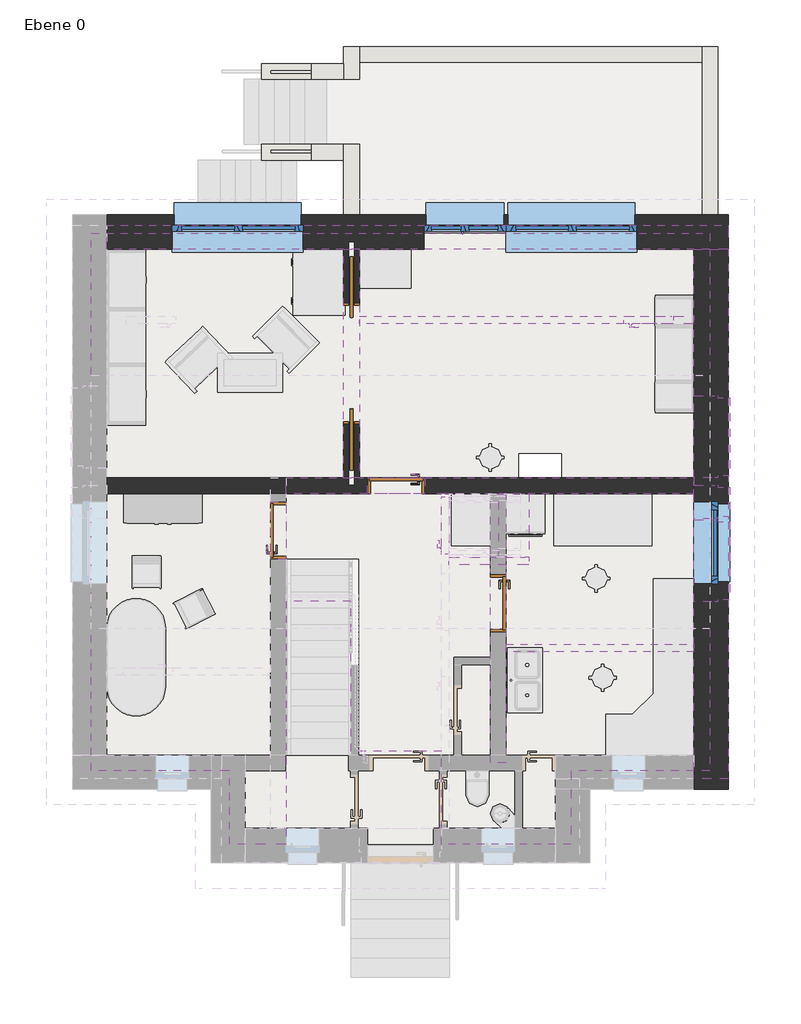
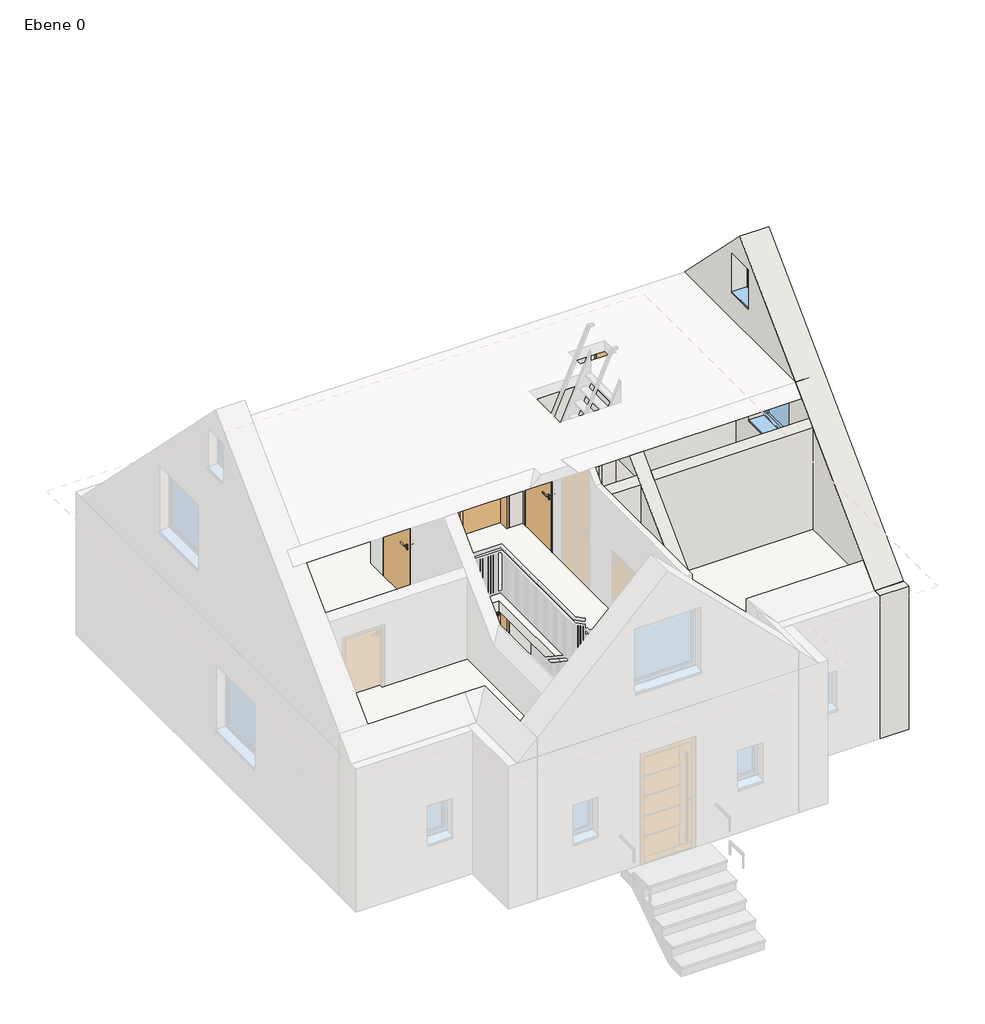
# One storey, part 2 of 3: 19 walls, 8 doors, 7 windows, 3 slabs.
"""IFC4 building model written with IfcOpenShell, lengths in millimetres."""

from ifc_helpers import new_model, si_unit, frame, origin, place, context, project, spatial, polyline, outline, extrude, faceted_brep, transform, mapped, element, save
from components import door_a362e75e, door_5454d597, door_c0c9e2e8, ml_1860_x_226_mit_rahmenstock_2_204127ef, ml_760_x_1200_513c8107, window_1260_x_2136_395e8edb, fe_1_tlg_drehkipp_1260_x_1260_6cbcbbed, fe_1_tlg_drehkipp_510_x_760_2ecf23b0, fe_2_tlg_drehkipp_mit_stulp_2010_x_1260_aa5a6977

model = new_model("IFC4")

# Units and contexts
model_context = context("Model", 3, world=origin())
ifc_project = project(units=[si_unit("LENGTHUNIT", "METRE", prefix="MILLI")], contexts=[model_context])

# Site, building, storey
site = spatial("IfcSite", under=ifc_project)
building = spatial("IfcBuilding", under=site)
storey = spatial("IfcBuildingStorey", under=building, Name="Ebene 0", Elevation=1000.0)

# Doors
placement = place(None, origin())
door_shape = door_a362e75e(model_context)
element("IfcDoor", 1, ObjectType="TU DF 1 - Rahmenstock flächenbündig variabel : ML - H - 885 x 2260", at=placement, inside=storey, context=model_context, shape_type="MappedRepresentation", body=[
    mapped(door_shape, transform((2682.5, 5620.0, 1000.0), x_axis=(-1.0, 0.0, 0.0), y_axis=(0.0, -1.0, 0.0), z_axis=(0.0, 0.0, 1.0))),
])
element("IfcDoor", 2, ObjectType="TU DF 1 - Rahmenstock flächenbündig variabel : ML - H - 885 x 2260", at=placement, inside=storey, context=model_context, shape_type="MappedRepresentation", body=[
    mapped(door_shape, transform((2682.5, 5620.0, 3750.0), x_axis=(-1.0, 0.0, 0.0), y_axis=(0.0, -1.0, 0.0), z_axis=(0.0, 0.0, 1.0))),
])
door_2_shape = door_5454d597(model_context)
element("IfcDoor", 3, ObjectType="TU DF 1 - Rahmenstock flächenbündig variabel : ML - H - 885 x 2260", at=placement, inside=storey, context=model_context, shape_type="MappedRepresentation", body=[
    mapped(door_2_shape, transform((870.0, 4932.5, 1000.0), x_axis=(0.0, 1.0, 0.0), y_axis=(-1.0, 0.0, 0.0), z_axis=(0.0, 0.0, 1.0))),
])
element("IfcDoor", 4, ObjectType="TU DF 1 - Rahmenstock flächenbündig variabel : ML - H - 885 x 2260", at=placement, inside=storey, context=model_context, shape_type="MappedRepresentation", body=[
    mapped(door_2_shape, transform((870.0, 4932.5, 3750.0), x_axis=(0.0, 1.0, 0.0), y_axis=(-1.0, 0.0, 0.0), z_axis=(0.0, 0.0, 1.0))),
])
door_3_shape = door_c0c9e2e8(model_context)
element("IfcDoor", 5, ObjectType="TU DF 1 - Rahmenstock flächenbündig variabel : ML - H - 885 x 2260", at=placement, inside=storey, context=model_context, shape_type="MappedRepresentation", body=[
    mapped(door_3_shape, transform((3432.5, 5010.0, 3750.0), x_axis=(0.0, 1.0, 0.0), y_axis=(-1.0, 0.0, 0.0), z_axis=(0.0, 0.0, 1.0))),
])
element("IfcDoor", 6, ObjectType="TU DF 1 - Rahmenstock flächenbündig variabel : ML - H - 885 x 2260", at=placement, inside=storey, context=model_context, shape_type="MappedRepresentation", body=[
    mapped(door_2_shape, transform((4245.0, 3817.5, 1100.0), x_axis=(0.0, -1.0, 0.0), y_axis=(1.0, 0.0, 0.0), z_axis=(0.0, 0.0, 1.0))),
])
ml_1860_x_226_mit_rahmenstock_2_shape = ml_1860_x_226_mit_rahmenstock_2_204127ef(model_context)
element("IfcDoor", 7, ObjectType="TU SF 2 - Schiebetüre in Wandtasche : ML - 1860 x 226 mit Rahmenstock 2", at=placement, inside=storey, context=model_context, shape_type="MappedRepresentation", body=[
    mapped(ml_1860_x_226_mit_rahmenstock_2_shape, transform((1995.1159714, 7495.0, 1000.0), x_axis=(0.0, 1.0, 0.0), y_axis=(-1.0, 0.0, 0.0), z_axis=(0.0, 0.0, 1.0))),
])
ml_760_x_1200_shape = ml_760_x_1200_513c8107(model_context)
element("IfcDoor", 8, ObjectType="TU DF 1 - Rahmenstock flächenbündig : ML -760 x 1200", at=placement, inside=storey, context=model_context, shape_type="MappedRepresentation", body=[
    mapped(ml_760_x_1200_shape, transform((6555.0, 8157.5, 3750.0), x_axis=(1.0, 0.0, 0.0), y_axis=(0.0, 1.0, 0.0), z_axis=(0.0, 0.0, 1.0))),
])

# Slabs
element("IfcSlab", 9, ObjectType="FB 100 Terrazzo", at=placement, inside=storey, context=model_context, shape_type="SweptSolid", body=[
    extrude(outline(polyline([(4365.0, 1490.0), (4365.0, 5500.0), (7250.0, 5500.0), (7250.0, 1490.0), (5125.0, 1490.0), (5125.0, 365.0), (4615.0, 365.0), (4615.0, 1490.0), (4365.0, 1490.0)])), frame((0.0, 0.0, 1000.0), z_axis=(0.0, 0.0, 1.0), x_axis=(1.0, 0.0, 0.0)), (0.0, 0.0, 1.0), 100.0),
])
element("IfcSlab", 10, ObjectType="STB 200", at=placement, inside=storey, context=model_context, shape_type="Brep", body=[
    faceted_brep([(-2000.0, 9490.0, 3550.0), (-1760.0, 9490.0, 3550.0), (7490.0, 9490.0, 3550.0), (7490.0, 9250.0, 3550.0), (7490.0, 1250.0, 3550.0), (7250.0, 1250.0, 3550.0), (5365.0, 1250.0, 3550.0), (5365.0, 965.0, 3550.0), (5365.0, 125.0, 3550.0), (5125.0, 125.0, 3550.0), (3375.0, 125.0, 3550.0), (3375.0, 365.0, 3550.0), (3375.0, 1550.0, 3550.0), (1990.0, 1550.0, 3550.0), (1990.0, 3847.3, 3550.0), (990.0, 3847.3, 3550.0), (990.0, 365.0, 3550.0), (990.0, 125.0, 3550.0), (365.0, 125.0, 3550.0), (125.0, 125.0, 3550.0), (125.0, 1250.0, 3550.0), (-160.0, 1250.0, 3550.0), (-2000.0, 1250.0, 3550.0), (-2000.0, 1490.0, 3550.0), (5215.0, 5751.2341615, 3550.0), (5215.0, 6111.2341615, 3550.0), (4565.0, 6111.2341615, 3550.0), (4565.0, 5751.2341615, 3550.0), (7490.0, 9490.0, 3750.0), (-1760.0, 9490.0, 3750.0), (-2000.0, 9490.0, 3750.0), (-2000.0, 1490.0, 3750.0), (-2000.0, 1250.0, 3750.0), (-160.0, 1250.0, 3750.0), (125.0, 1250.0, 3750.0), (125.0, 125.0, 3750.0), (365.0, 125.0, 3750.0), (990.0, 125.0, 3750.0), (990.0, 365.0, 3750.0), (990.0, 3847.3, 3750.0), (1990.0, 3847.3, 3750.0), (1990.0, 1550.0, 3750.0), (3375.0, 1550.0, 3750.0), (3375.0, 365.0, 3750.0), (3375.0, 125.0, 3750.0), (5125.0, 125.0, 3750.0), (5365.0, 125.0, 3750.0), (5365.0, 965.0, 3750.0), (5365.0, 1250.0, 3750.0), (7250.0, 1250.0, 3750.0), (7490.0, 1250.0, 3750.0), (7490.0, 9250.0, 3750.0), (5215.0, 6111.2341615, 3750.0), (5215.0, 5751.2341615, 3750.0), (4565.0, 5751.2341615, 3750.0), (4565.0, 6111.2341615, 3750.0)], [[[0, 1, 2, 3, 4, 5, 6, 7, 8, 9, 10, 11, 12, 13, 14, 15, 16, 17, 18, 19, 20, 21, 22, 23], [24, 25, 26, 27]], [[28, 29, 30, 31, 32, 33, 34, 35, 36, 37, 38, 39, 40, 41, 42, 43, 44, 45, 46, 47, 48, 49, 50, 51], [52, 53, 54, 55]], [[2, 1, 0, 30, 29, 28]], [[4, 3, 2, 28, 51, 50]], [[6, 5, 4, 50, 49, 48]], [[8, 7, 6, 48, 47, 46]], [[10, 9, 8, 46, 45, 44]], [[20, 19, 35, 34]], [[22, 21, 20, 34, 33, 32]], [[0, 23, 22, 32, 31, 30]], [[17, 16, 15, 39, 38, 37]], [[14, 13, 41, 40]], [[15, 14, 40, 39]], [[12, 11, 10, 44, 43, 42]], [[13, 12, 42, 41]], [[19, 18, 17, 37, 36, 35]], [[24, 53, 52, 25]], [[25, 52, 55, 26]], [[26, 55, 54, 27]], [[53, 24, 27, 54]]]),
])
element("IfcSlab", 11, ObjectType="STB 200", at=placement, inside=storey, context=model_context, shape_type="Brep", body=[
    faceted_brep([(-2000.0, 9490.0, 800.0), (-1825.0, 9490.0, 800.0), (7490.0, 9490.0, 800.0), (7490.0, 9315.0, 800.0), (7490.0, 1250.0, 800.0), (7315.0, 1250.0, 800.0), (5365.0, 1250.0, 800.0), (5365.0, 965.0, 800.0), (5365.0, 125.0, 800.0), (5190.0, 125.0, 800.0), (300.0, 125.0, 800.0), (125.0, 125.0, 800.0), (125.0, 1250.0, 800.0), (-160.0, 1250.0, 800.0), (-2000.0, 1250.0, 800.0), (-2000.0, 1425.0, 800.0), (990.0, 4490.0, 800.0), (990.0, 1490.0, 800.0), (1990.0, 1490.0, 800.0), (1990.0, 4490.0, 800.0), (5215.0, 5751.2341615, 800.0), (5215.0, 6111.2341615, 800.0), (4565.0, 6111.2341615, 800.0), (4565.0, 5751.2341615, 800.0), (7490.0, 9490.0, 1000.0), (-1825.0, 9490.0, 1000.0), (-2000.0, 9490.0, 1000.0), (-2000.0, 1425.0, 1000.0), (-2000.0, 1250.0, 1000.0), (-160.0, 1250.0, 1000.0), (125.0, 1250.0, 1000.0), (125.0, 125.0, 1000.0), (300.0, 125.0, 1000.0), (5190.0, 125.0, 1000.0), (5365.0, 125.0, 1000.0), (5365.0, 965.0, 1000.0), (5365.0, 1250.0, 1000.0), (7315.0, 1250.0, 1000.0), (7490.0, 1250.0, 1000.0), (7490.0, 9315.0, 1000.0), (990.0, 1490.0, 1000.0), (990.0, 4490.0, 1000.0), (1990.0, 4490.0, 1000.0), (1990.0, 1490.0, 1000.0), (5215.0, 6111.2341615, 1000.0), (5215.0, 5751.2341615, 1000.0), (4565.0, 5751.2341615, 1000.0), (4565.0, 6111.2341615, 1000.0)], [[[0, 1, 2, 3, 4, 5, 6, 7, 8, 9, 10, 11, 12, 13, 14, 15], [16, 17, 18, 19], [20, 21, 22, 23]], [[24, 25, 26, 27, 28, 29, 30, 31, 32, 33, 34, 35, 36, 37, 38, 39], [40, 41, 42, 43], [44, 45, 46, 47]], [[2, 1, 0, 26, 25, 24]], [[4, 3, 2, 24, 39, 38]], [[6, 5, 4, 38, 37, 36]], [[8, 7, 6, 36, 35, 34]], [[11, 10, 9, 8, 34, 33, 32, 31]], [[12, 11, 31, 30]], [[14, 13, 12, 30, 29, 28]], [[0, 15, 14, 28, 27, 26]], [[17, 16, 41, 40]], [[18, 17, 40, 43]], [[19, 18, 43, 42]], [[16, 19, 42, 41]], [[20, 45, 44, 21]], [[21, 44, 47, 22]], [[22, 47, 46, 23]], [[45, 20, 23, 46]]]),
])

# Walls
element("IfcWall", 12, ObjectType="Ziegel+WD hart 365+140+2", at=placement, inside=storey, context=model_context, shape_type="Brep", body=[
    faceted_brep([(-1760.0, 9250.0, 1000.0), (1875.0, 9250.0, 1000.0), (1952.6159714, 9250.0, 1000.0), (1952.6159714, 9250.0, 3260.0), (2037.6159714, 9250.0, 3260.0), (2037.6159714, 9250.0, 1000.0), (2115.0, 9250.0, 1000.0), (3105.0, 9250.0, 1000.0), (3105.0, 9250.0, 3135.0), (4365.0, 9250.0, 3135.0), (4365.0, 9250.0, 3110.0), (6375.0, 9250.0, 3110.0), (6375.0, 9250.0, 1850.0), (4365.0, 9250.0, 1850.0), (4365.0, 9250.0, 1000.0), (7250.0, 9250.0, 1000.0), (7775.0, 9250.0, 1000.0), (7775.0, 9250.0, 3750.0), (7490.0, 9250.0, 3750.0), (7490.0, 9250.0, 3550.0), (7250.0, 9250.0, 3550.0), (2115.0, 9250.0, 3550.0), (1875.0, 9250.0, 3550.0), (-1760.0, 9250.0, 3550.0), (-760.0, 9250.0, 3110.0), (1250.0, 9250.0, 3110.0), (1250.0, 9250.0, 1850.0), (-760.0, 9250.0, 1850.0), (7775.0, 9775.0, 1000.0), (-1760.0, 9775.0, 1000.0), (-1760.0, 9775.0, 3750.0), (7775.0, 9775.0, 3750.0), (1220.0, 9775.0, 1865.0), (1220.0, 9775.0, 3080.0), (-730.0, 9775.0, 3080.0), (-730.0, 9775.0, 1865.0), (4335.0, 9775.0, 1195.0), (4335.0, 9775.0, 3105.0), (3135.0, 9775.0, 3105.0), (3135.0, 9775.0, 1195.0), (6345.0, 9775.0, 1865.0), (6345.0, 9775.0, 3080.0), (4395.0, 9775.0, 3080.0), (4395.0, 9775.0, 1865.0), (4365.0, 9615.0, 1000.0), (3105.0, 9615.0, 1000.0), (2037.6159714, 9360.0, 1000.0), (1952.6159714, 9360.0, 1000.0), (-1760.0, 9490.0, 3750.0), (7490.0, 9490.0, 3750.0), (7775.0, 9615.0, 3750.0), (-1760.0, 9490.0, 3550.0), (-760.0, 9615.0, 3110.0), (1250.0, 9615.0, 3110.0), (1250.0, 9615.0, 1850.0), (-760.0, 9615.0, 1850.0), (1220.0, 9615.0, 3080.0), (1220.0, 9615.0, 1870.0), (-730.0, 9615.0, 1870.0), (-730.0, 9615.0, 3080.0), (1952.6159714, 9360.0, 3260.0), (2037.6159714, 9360.0, 3260.0), (3105.0, 9615.0, 3135.0), (4365.0, 9615.0, 3135.0), (4365.0, 9615.0, 3110.0), (4365.0, 9615.0, 1850.0), (6375.0, 9615.0, 1850.0), (6375.0, 9615.0, 3110.0), (4335.0, 9615.0, 3105.0), (4335.0, 9615.0, 1200.0), (3135.0, 9615.0, 1200.0), (3135.0, 9615.0, 3105.0), (6345.0, 9615.0, 3080.0), (6345.0, 9615.0, 1870.0), (4395.0, 9615.0, 1870.0), (4395.0, 9615.0, 3080.0), (7490.0, 9490.0, 3550.0)], [[[0, 1, 2, 3, 4, 5, 6, 7, 8, 9, 10, 11, 12, 13, 14, 15, 16, 17, 18, 19, 20, 21, 22, 23], [24, 25, 26, 27]], [[28, 29, 30, 31], [32, 33, 34, 35], [36, 37, 38, 39], [40, 41, 42, 43]], [[29, 28, 16, 15, 14, 44, 45, 7, 6, 5, 46, 47, 2, 1, 0]], [[31, 30, 48, 49, 18, 17, 50]], [[30, 29, 0, 23, 51, 48]], [[52, 53, 25, 24]], [[54, 55, 27, 26]], [[52, 24, 27, 55]], [[25, 53, 54, 26]], [[53, 52, 55, 54], [56, 57, 58, 59]], [[57, 56, 33, 32]], [[58, 57, 32, 35]], [[59, 58, 35, 34]], [[56, 59, 34, 33]], [[60, 61, 4, 3]], [[47, 60, 3, 2]], [[61, 46, 5, 4]], [[61, 60, 47, 46]], [[62, 63, 9, 8]], [[62, 8, 7, 45]], [[9, 63, 64, 10]], [[44, 14, 13, 65]], [[63, 62, 45, 44, 65, 66, 67, 64], [68, 69, 70, 71], [72, 73, 74, 75]], [[69, 68, 37, 36]], [[70, 69, 36, 39]], [[71, 70, 39, 38]], [[68, 71, 38, 37]], [[64, 67, 11, 10]], [[66, 65, 13, 12]], [[67, 66, 12, 11]], [[73, 72, 41, 40]], [[74, 73, 40, 43]], [[75, 74, 43, 42]], [[72, 75, 42, 41]], [[19, 76, 51, 23, 22, 21, 20]], [[76, 49, 48, 51]], [[49, 76, 19, 18]], [[16, 28, 31, 50, 17]]]),
])
element("IfcWall", 13, ObjectType="Ziegel+WD hart 365+140+2", at=placement, inside=storey, context=model_context, shape_type="Brep", body=[
    faceted_brep([(7250.0, 9250.0, 1000.0), (7250.0, 5740.0, 1000.0), (7250.0, 5500.0, 1000.0), (7250.0, 1490.0, 1000.0), (7250.0, 965.0, 1000.0), (7250.0, 965.0, 3750.0), (7250.0, 1125.0, 3750.0), (7250.0, 1250.0, 3750.0), (7250.0, 1250.0, 3550.0), (7250.0, 1490.0, 3550.0), (7250.0, 5500.0, 3550.0), (7250.0, 5740.0, 3550.0), (7250.0, 9250.0, 3550.0), (7250.0, 5375.0, 3110.0), (7250.0, 4115.0, 3110.0), (7250.0, 4115.0, 1850.0), (7250.0, 5375.0, 1850.0), (7775.0, 965.0, 1000.0), (7775.0, 9250.0, 1000.0), (7775.0, 9250.0, 3750.0), (7775.0, 1125.0, 3750.0), (7775.0, 965.0, 3750.0), (7775.0, 4145.0, 1860.0), (7775.0, 4145.0, 3080.0), (7775.0, 5345.0, 3080.0), (7775.0, 5345.0, 1860.0), (7615.0, 5375.0, 3110.0), (7615.0, 4115.0, 3110.0), (7615.0, 5375.0, 1850.0), (7615.0, 4115.0, 1850.0), (7615.0, 4145.0, 3080.0), (7615.0, 4145.0, 1870.0), (7615.0, 5345.0, 1870.0), (7615.0, 5345.0, 3080.0), (7490.0, 1250.0, 3550.0), (7490.0, 9250.0, 3550.0), (7490.0, 1250.0, 3750.0), (7490.0, 9250.0, 3750.0)], [[[0, 1, 2, 3, 4, 5, 6, 7, 8, 9, 10, 11, 12], [13, 14, 15, 16]], [[17, 18, 19, 20, 21], [22, 23, 24, 25]], [[5, 4, 17, 21]], [[26, 27, 14, 13]], [[28, 16, 15, 29]], [[26, 13, 16, 28]], [[14, 27, 29, 15]], [[27, 26, 28, 29], [30, 31, 32, 33]], [[31, 30, 23, 22]], [[32, 31, 22, 25]], [[33, 32, 25, 24]], [[30, 33, 24, 23]], [[8, 34, 35, 12, 11, 10, 9]], [[34, 36, 37, 35]], [[36, 34, 8, 7]], [[19, 18, 0, 12, 35, 37]], [[4, 3, 2, 1, 0, 18, 17]], [[21, 20, 19, 37, 36, 7, 6, 5]]]),
])
element("IfcWall", 14, ObjectType="Ziegel+WD hart 365+140+2", at=placement, inside=storey, context=model_context, shape_type="Brep", body=[
    faceted_brep([(7250.0, 9250.0, 3750.0), (7250.0, 5740.0, 3750.0), (7250.0, 5500.0, 3750.0), (7250.0, 3190.0, 3750.0), (7250.0, 3075.0, 3750.0), (7250.0, 1490.0, 3750.0), (7250.0, 1250.0, 3750.0), (7250.0, 1125.0, 3750.0), (7250.0, 1125.0, 3753.0508653), (7250.0, 1128.0508653, 3753.0508653), (7250.0, 1490.0, 4115.0), (7250.0, 3075.0, 5700.0), (7250.0, 3190.0, 5815.0), (7250.0, 5370.0, 7995.0), (7250.0, 9250.0, 4115.0), (7250.0, 5100.0, 5860.0), (7250.0, 3840.0, 5860.0), (7250.0, 3840.0, 4600.0), (7250.0, 5100.0, 4600.0), (7250.0, 7000.0, 5860.0), (7250.0, 5740.0, 5860.0), (7250.0, 5740.0, 4600.0), (7250.0, 7000.0, 4600.0), (7250.0, 5625.0, 7510.0), (7250.0, 5115.0, 7510.0), (7250.0, 5115.0, 6750.0), (7250.0, 5625.0, 6750.0), (7775.0, 1125.0, 3750.0), (7775.0, 9250.0, 3750.0), (7775.0, 9250.0, 4115.0), (7775.0, 5370.0, 7995.0), (7775.0, 1128.0508653, 3753.0508653), (7775.0, 1125.0, 3753.0508653), (7775.0, 3870.0, 4610.0), (7775.0, 3870.0, 5830.0), (7775.0, 5070.0, 5830.0), (7775.0, 5070.0, 4610.0), (7775.0, 5770.0, 4610.0), (7775.0, 5770.0, 5830.0), (7775.0, 6970.0, 5830.0), (7775.0, 6970.0, 4610.0), (7775.0, 5145.0, 6760.0), (7775.0, 5145.0, 7480.0), (7775.0, 5595.0, 7480.0), (7775.0, 5595.0, 6760.0), (7490.0, 9250.0, 3750.0), (7615.0, 5100.0, 5860.0), (7615.0, 3840.0, 5860.0), (7615.0, 5100.0, 4600.0), (7615.0, 3840.0, 4600.0), (7615.0, 3870.0, 5830.0), (7615.0, 3870.0, 4620.0), (7615.0, 5070.0, 4620.0), (7615.0, 5070.0, 5830.0), (7615.0, 7000.0, 5860.0), (7615.0, 5740.0, 5860.0), (7615.0, 7000.0, 4600.0), (7615.0, 5740.0, 4600.0), (7615.0, 5770.0, 5830.0), (7615.0, 5770.0, 4620.0), (7615.0, 6970.0, 4620.0), (7615.0, 6970.0, 5830.0), (7615.0, 5625.0, 7510.0), (7615.0, 5115.0, 7510.0), (7615.0, 5625.0, 6750.0), (7615.0, 5115.0, 6750.0), (7615.0, 5145.0, 7480.0), (7615.0, 5145.0, 6770.0), (7615.0, 5595.0, 6770.0), (7615.0, 5595.0, 7480.0)], [[[0, 1, 2, 3, 4, 5, 6, 7, 8, 9, 10, 11, 12, 13, 14], [15, 16, 17, 18], [19, 20, 21, 22], [23, 24, 25, 26]], [[27, 28, 29, 30, 31, 32], [33, 34, 35, 36], [37, 38, 39, 40], [41, 42, 43, 44]], [[7, 6, 5, 4, 3, 2, 1, 0, 45, 28, 27]], [[0, 14, 29, 28, 45]], [[8, 7, 27, 32]], [[46, 47, 16, 15]], [[48, 18, 17, 49]], [[46, 15, 18, 48]], [[16, 47, 49, 17]], [[47, 46, 48, 49], [50, 51, 52, 53]], [[51, 50, 34, 33]], [[52, 51, 33, 36]], [[53, 52, 36, 35]], [[50, 53, 35, 34]], [[54, 55, 20, 19]], [[56, 22, 21, 57]], [[54, 19, 22, 56]], [[20, 55, 57, 21]], [[55, 54, 56, 57], [58, 59, 60, 61]], [[59, 58, 38, 37]], [[60, 59, 37, 40]], [[61, 60, 40, 39]], [[58, 61, 39, 38]], [[29, 14, 13, 30]], [[13, 12, 11, 10, 9, 31, 30]], [[8, 32, 31, 9]], [[62, 63, 24, 23]], [[64, 26, 25, 65]], [[62, 23, 26, 64]], [[24, 63, 65, 25]], [[63, 62, 64, 65], [66, 67, 68, 69]], [[67, 66, 42, 41]], [[68, 67, 41, 44]], [[69, 68, 44, 43]], [[66, 69, 43, 42]]]),
])
element("IfcWall", 15, ObjectType="Klinker 240", at=placement, inside=storey, context=model_context, shape_type="SweptSolid", body=[
    extrude(outline(polyline([(1000.0, 1875.0), (2000.0, 1875.0), (2000.0, 1380.0), (1500.0, 1380.0), (1500.0, 615.0), (1000.0, 615.0), (1000.0, 1875.0)])), frame((0.0, 10615.0, 0.0), z_axis=(0.0, 1.0, 0.0), x_axis=(0.0, 0.0, 1.0)), (0.0, 0.0, 1.0), 240.0),
])
element("IfcWall", 16, ObjectType="Klinker 240", at=placement, inside=storey, context=model_context, shape_type="SweptSolid", body=[
    extrude(outline(polyline([(1000.0, 1875.0), (2000.0, 1875.0), (2000.0, 1380.0), (1500.0, 1380.0), (1500.0, 615.0), (1000.0, 615.0), (1000.0, 1875.0)])), frame((0.0, 11855.0, 0.0), z_axis=(0.0, 1.0, 0.0), x_axis=(0.0, 0.0, 1.0)), (0.0, 0.0, 1.0), 240.0),
])
element("IfcWall", 17, ObjectType="Ziegel 115", at=placement, inside=storey, context=model_context, shape_type="Brep", body=[
    faceted_brep([(-1760.0, 8100.0, 5265.0), (-1760.0, 8100.0, 3750.0), (-1465.0, 8100.0, 3750.0), (-1465.0, 8100.0, 4950.0), (-705.0, 8100.0, 4950.0), (-705.0, 8100.0, 3750.0), (1875.0, 8100.0, 3750.0), (1875.0, 8100.0, 5265.0), (-1760.0, 8215.0, 3750.0), (-1760.0, 8215.0, 5150.0), (1875.0, 8215.0, 5150.0), (1875.0, 8215.0, 3750.0), (-705.0, 8215.0, 3750.0), (-705.0, 8215.0, 4950.0), (-1465.0, 8215.0, 4950.0), (-1465.0, 8215.0, 3750.0)], [[[0, 1, 2, 3, 4, 5, 6, 7]], [[8, 9, 10, 11, 12, 13, 14, 15]], [[1, 8, 15, 2]], [[5, 12, 11, 6]], [[1, 0, 9, 8]], [[7, 6, 11, 10]], [[3, 2, 15, 14]], [[5, 4, 13, 12]], [[4, 3, 14, 13]], [[9, 0, 7, 10]]]),
    faceted_brep([(7250.0, 8100.0, 3750.0), (7250.0, 8100.0, 5265.0), (2115.0, 8100.0, 5265.0), (2115.0, 8100.0, 3750.0), (6175.0, 8100.0, 3750.0), (6175.0, 8100.0, 4950.0), (6935.0, 8100.0, 4950.0), (6935.0, 8100.0, 3750.0), (7250.0, 8215.0, 5150.0), (7250.0, 8215.0, 3750.0), (6935.0, 8215.0, 3750.0), (6935.0, 8215.0, 4950.0), (6175.0, 8215.0, 4950.0), (6175.0, 8215.0, 3750.0), (2115.0, 8215.0, 3750.0), (2115.0, 8215.0, 5150.0)], [[[0, 1, 2, 3, 4, 5, 6, 7]], [[8, 9, 10, 11, 12, 13, 14, 15]], [[9, 0, 7, 10]], [[13, 4, 3, 14]], [[1, 0, 9, 8]], [[3, 2, 15, 14]], [[6, 11, 10, 7]], [[12, 5, 4, 13]], [[11, 6, 5, 12]], [[1, 8, 15, 2]]]),
])
element("IfcWall", 18, ObjectType="Ziegel 115", at=placement, inside=storey, context=model_context, shape_type="Brep", body=[
    faceted_brep([(7250.0, 3075.0, 3750.0), (7250.0, 3075.0, 5700.0), (4365.0, 3075.0, 5700.0), (4365.0, 3075.0, 3750.0), (7250.0, 3190.0, 5815.0), (7250.0, 3190.0, 3750.0), (4365.0, 3190.0, 3750.0), (4365.0, 3190.0, 5760.0), (4365.0, 3190.0, 5815.0)], [[[0, 1, 2, 3]], [[4, 5, 6, 7, 8]], [[5, 0, 3, 6]], [[1, 0, 5, 4]], [[3, 2, 8, 7, 6]], [[1, 4, 8, 2]]]),
    faceted_brep([(3490.0, 3075.0, 5750.0), (3490.0, 3075.0, 3750.0), (4125.0, 3075.0, 3750.0), (4125.0, 3075.0, 5700.0), (3540.0, 3075.0, 5700.0), (3490.0, 3190.0, 3750.0), (3490.0, 3190.0, 5815.0), (4125.0, 3190.0, 5815.0), (4125.0, 3190.0, 5760.0), (4125.0, 3190.0, 3750.0), (3490.0, 3125.0, 5750.0)], [[[0, 1, 2, 3, 4]], [[5, 6, 7, 8, 9]], [[1, 5, 9, 2]], [[1, 0, 10, 6, 5]], [[3, 2, 9, 8, 7]], [[0, 4, 10]], [[6, 10, 4, 3, 7]]]),
])
element("IfcWall", 19, ObjectType="Ziegel 115", at=placement, inside=storey, context=model_context, shape_type="Brep", body=[
    faceted_brep([(4125.0, 4520.0, 3750.0), (3490.0, 4520.0, 3750.0), (3490.0, 4520.0, 6050.0), (4125.0, 4520.0, 6050.0), (4365.0, 4520.0, 6050.0), (4590.0, 4520.0, 6050.0), (4593.9681704, 4520.0, 6050.0), (4718.8996138, 4520.0, 6050.0), (4719.1733767, 4520.0, 6050.0), (4365.0, 4520.0, 5215.6198126), (4125.0, 4520.0, 4650.2152448), (4125.0, 4405.0, 3750.0), (4125.0, 4405.0, 4650.2152448), (4365.0, 4405.0, 5215.6198126), (4719.1733767, 4405.0, 6050.0), (4365.0, 4405.0, 6050.0), (4125.0, 4405.0, 6050.0), (3490.0, 4405.0, 6050.0), (3490.0, 4405.0, 3750.0)], [[[0, 1, 2, 3, 4, 5, 6, 7, 8, 9, 10]], [[11, 12, 13, 14, 15, 16, 17, 18]], [[2, 1, 18, 17]], [[1, 0, 11, 18]], [[10, 9, 8, 14, 13, 12]], [[0, 10, 12, 11]], [[8, 7, 6, 5, 4, 3, 2, 17, 16, 15, 14]]]),
])
element("IfcWall", 20, ObjectType="Ziegel 115", at=placement, inside=storey, context=model_context, shape_type="SweptSolid", body=[
    extrude(outline(polyline([(5250.0, 4254.3883174), (5250.0, 4379.3197608), (6050.0, 4718.8996138), (6050.0, 4593.9681704), (5250.0, 4254.3883174)])), frame((0.0, 4520.0, 0.0), z_axis=(0.0, 1.0, 0.0), x_axis=(0.0, 0.0, 1.0)), (0.0, 0.0, 1.0), 980.0),
])
element("IfcWall", 21, ObjectType="Ziegel 240", at=placement, inside=storey, context=model_context, shape_type="Brep", body=[
    faceted_brep([(-1760.0, 5500.0, 3550.0), (-1760.0, 5500.0, 1000.0), (750.0, 5500.0, 1000.0), (990.0, 5500.0, 1000.0), (2240.0, 5500.0, 1000.0), (2240.0, 5500.0, 3260.0), (3125.0, 5500.0, 3260.0), (3125.0, 5500.0, 1000.0), (7250.0, 5500.0, 1000.0), (7250.0, 5500.0, 3550.0), (990.0, 5500.0, 3550.0), (750.0, 5500.0, 3550.0), (-1760.0, 5740.0, 1000.0), (-1760.0, 5740.0, 3550.0), (1875.0, 5740.0, 3550.0), (2115.0, 5740.0, 3550.0), (7250.0, 5740.0, 3550.0), (7250.0, 5740.0, 1000.0), (3125.0, 5740.0, 1000.0), (3125.0, 5740.0, 3260.0), (2240.0, 5740.0, 3260.0), (2240.0, 5740.0, 1000.0), (2115.0, 5740.0, 1000.0), (2037.6159714, 5740.0, 1000.0), (2037.6159714, 5740.0, 3260.0), (1952.6159714, 5740.0, 3260.0), (1952.6159714, 5740.0, 1000.0), (1875.0, 5740.0, 1000.0), (1952.6159714, 5630.0, 1000.0), (2037.6159714, 5630.0, 1000.0), (2037.6159714, 5630.0, 3260.0), (1952.6159714, 5630.0, 3260.0)], [[[0, 1, 2, 3, 4, 5, 6, 7, 8, 9, 10, 11]], [[12, 13, 14, 15, 16, 17, 18, 19, 20, 21, 22, 23, 24, 25, 26, 27]], [[1, 12, 27, 26, 28, 29, 23, 22, 21, 4, 3, 2]], [[17, 8, 7, 18]], [[1, 0, 13, 12]], [[9, 8, 17, 16]], [[5, 4, 21, 20]], [[7, 6, 19, 18]], [[6, 5, 20, 19]], [[30, 31, 25, 24]], [[31, 28, 26, 25]], [[31, 30, 29, 28]], [[29, 30, 24, 23]], [[0, 11, 10, 9, 16, 15, 14, 13]]]),
])
element("IfcWall", 22, ObjectType="Ziegel 240", at=placement, inside=storey, context=model_context, shape_type="Brep", body=[
    faceted_brep([(1875.0, 9250.0, 3550.0), (1875.0, 9250.0, 1000.0), (1875.0, 8425.0, 1000.0), (1875.0, 8425.0, 3260.0), (1875.0, 6565.0, 3260.0), (1875.0, 6565.0, 1000.0), (1875.0, 5740.0, 1000.0), (1875.0, 5740.0, 3550.0), (2115.0, 9250.0, 1000.0), (2115.0, 9250.0, 3550.0), (2115.0, 5740.0, 3550.0), (2115.0, 5740.0, 1000.0), (2115.0, 6565.0, 1000.0), (2115.0, 6565.0, 3260.0), (2115.0, 8425.0, 3260.0), (2115.0, 8425.0, 1000.0), (1952.6159714, 6565.0, 1000.0), (1952.6159714, 5740.0, 1000.0), (1952.6159714, 9250.0, 1000.0), (1952.6159714, 8425.0, 1000.0), (2037.6159714, 5740.0, 1000.0), (2037.6159714, 6565.0, 1000.0), (2037.6159714, 8425.0, 1000.0), (2037.6159714, 9250.0, 1000.0), (2037.6159714, 9250.0, 3260.0), (1952.6159714, 9250.0, 3260.0), (1952.6159714, 5740.0, 3260.0), (2037.6159714, 5740.0, 3260.0), (2037.6159714, 6565.0, 3260.0), (1952.6159714, 6565.0, 3260.0), (1952.6159714, 8425.0, 3260.0), (2037.6159714, 8425.0, 3260.0)], [[[0, 1, 2, 3, 4, 5, 6, 7]], [[8, 9, 10, 11, 12, 13, 14, 15]], [[6, 5, 16, 17]], [[2, 1, 18, 19]], [[12, 11, 20, 21]], [[8, 15, 22, 23]], [[1, 0, 9, 8, 23, 24, 25, 18]], [[7, 6, 17, 26, 27, 20, 11, 10]], [[13, 28, 27, 26, 29, 4, 3, 30, 25, 24, 31, 14]], [[28, 13, 12, 21]], [[4, 29, 16, 5]], [[30, 3, 2, 19]], [[14, 31, 22, 15]], [[16, 29, 26, 17]], [[30, 19, 18, 25]], [[28, 21, 20, 27]], [[22, 31, 24, 23]], [[0, 7, 10, 9]]]),
])
element("IfcWall", 23, ObjectType="Ziegel 240", at=placement, inside=storey, context=model_context, shape_type="Brep", body=[
    faceted_brep([(7250.0, 5500.0, 3750.0), (7250.0, 5500.0, 6050.0), (4590.0, 5500.0, 6050.0), (3490.0, 5500.0, 6050.0), (990.0, 5500.0, 6050.0), (990.0, 5500.0, 3750.0), (2240.0, 5500.0, 3750.0), (2240.0, 5500.0, 6010.0), (3125.0, 5500.0, 6010.0), (3125.0, 5500.0, 3750.0), (990.0, 5740.0, 6050.0), (1875.0, 5740.0, 6050.0), (2115.0, 5740.0, 6050.0), (7250.0, 5740.0, 6050.0), (7250.0, 5740.0, 5860.0), (7250.0, 5740.0, 4600.0), (7250.0, 5740.0, 3750.0), (3125.0, 5740.0, 3750.0), (3125.0, 5740.0, 6010.0), (2240.0, 5740.0, 6010.0), (2240.0, 5740.0, 3750.0), (2115.0, 5740.0, 3750.0), (1875.0, 5740.0, 3750.0), (990.0, 5740.0, 3750.0)], [[[0, 1, 2, 3, 4, 5, 6, 7, 8, 9]], [[10, 11, 12, 13, 14, 15, 16, 17, 18, 19, 20, 21, 22, 23]], [[16, 0, 9, 17]], [[5, 23, 22, 21, 20, 6]], [[1, 0, 16, 15, 14, 13]], [[19, 7, 6, 20]], [[8, 18, 17, 9]], [[7, 19, 18, 8]], [[5, 4, 10, 23]], [[13, 12, 11, 10, 4, 3, 2, 1]]]),
])
element("IfcWall", 24, ObjectType="Ziegel 240", at=placement, inside=storey, context=model_context, shape_type="Brep", body=[
    faceted_brep([(4125.0, 1370.0, 3750.0), (4125.0, 1370.0, 3995.0), (4125.0, 3425.0, 6050.0), (4125.0, 4405.0, 6050.0), (4125.0, 4405.0, 4650.2152448), (4125.0, 4520.0, 4650.2152448), (4125.0, 4520.0, 6050.0), (4125.0, 4560.0, 6050.0), (4125.0, 4560.0, 5300.9090909), (4125.0, 5500.0, 5300.9090909), (4125.0, 5500.0, 3750.0), (4125.0, 4520.0, 3750.0), (4125.0, 4405.0, 3750.0), (4125.0, 4290.0, 3750.0), (4125.0, 4290.0, 5760.0), (4125.0, 3190.0, 5760.0), (4125.0, 3190.0, 3750.0), (4365.0, 1370.0, 3995.0), (4365.0, 1370.0, 3750.0), (4365.0, 3190.0, 3750.0), (4365.0, 3190.0, 5760.0), (4365.0, 4290.0, 5760.0), (4365.0, 4290.0, 3750.0), (4365.0, 5500.0, 3750.0), (4365.0, 5500.0, 5300.9090909), (4365.0, 4560.0, 5300.9090909), (4365.0, 4560.0, 6050.0), (4365.0, 4520.0, 6050.0), (4365.0, 4520.0, 5215.6198126), (4365.0, 4405.0, 5215.6198126), (4365.0, 4405.0, 6050.0), (4365.0, 3425.0, 6050.0)], [[[0, 1, 2, 3, 4, 5, 6, 7, 8, 9, 10, 11, 12, 13, 14, 15, 16]], [[17, 18, 19, 20, 21, 22, 23, 24, 25, 26, 27, 28, 29, 30, 31]], [[10, 9, 24, 23]], [[15, 20, 19, 16]], [[20, 15, 14, 21]], [[21, 14, 13, 22]], [[0, 16, 19, 18]], [[23, 22, 13, 12, 11, 10]], [[1, 0, 18, 17]], [[2, 1, 17, 31]], [[8, 7, 26, 25]], [[9, 8, 25, 24]], [[5, 28, 27, 6]], [[29, 4, 3, 30]], [[28, 5, 4, 29]], [[26, 7, 6, 27]], [[2, 31, 30, 3]]]),
])
element("IfcWall", 25, ObjectType="Ziegel 240", at=placement, inside=storey, context=model_context, shape_type="SweptSolid", body=[
    extrude(outline(polyline([(9250.0, 3750.0), (5740.0, 3750.0), (5740.0, 6050.0), (7315.0, 6050.0), (9250.0, 4115.0), (9250.0, 3750.0)])), frame((1875.0, 0.0, 0.0), z_axis=(1.0, 0.0, 0.0), x_axis=(0.0, 1.0, 0.0)), (0.0, 0.0, 1.0), 240.0),
])
element("IfcWall", 26, ObjectType="Ziegel 240", at=placement, inside=storey, context=model_context, shape_type="Brep", body=[
    faceted_brep([(7615.0, 9775.0, 1000.0), (7615.0, 12355.0, 1000.0), (7615.0, 12355.0, 2000.0), (7615.0, 9775.0, 2000.0), (7375.0, 9775.0, 1000.0), (7375.0, 9775.0, 2000.0), (7375.0, 12115.0, 2000.0), (7375.0, 12355.0, 2000.0), (7375.0, 12355.0, 1000.0), (7375.0, 12235.0, 1000.0), (7375.0, 12115.0, 1000.0), (7495.0, 9775.0, 1000.0)], [[[0, 1, 2, 3]], [[4, 5, 6, 7, 8, 9, 10]], [[1, 0, 11, 4, 10, 9, 8]], [[3, 2, 7, 6, 5]], [[2, 1, 8, 7]], [[0, 3, 5, 4, 11]]]),
])
element("IfcWall", 27, ObjectType="Ziegel 240", at=placement, inside=storey, context=model_context, shape_type="SweptSolid", body=[
    extrude(outline(polyline([(2115.0, 12355.0), (7375.0, 12355.0), (7375.0, 12115.0), (2115.0, 12115.0), (2115.0, 12355.0)])), frame((0.0, 0.0, 1000.0), z_axis=(0.0, 0.0, 1.0), x_axis=(1.0, 0.0, 0.0)), (0.0, 0.0, 1.0), 1000.0),
])
element("IfcWall", 28, ObjectType="Ziegel 240", at=placement, inside=storey, context=model_context, shape_type="Brep", body=[
    faceted_brep([(1875.0, 12355.0, 1000.0), (1875.0, 12095.0, 1000.0), (1875.0, 11855.0, 1000.0), (1875.0, 11855.0, 2000.0), (1875.0, 12095.0, 2000.0), (1875.0, 12355.0, 2000.0), (2115.0, 12355.0, 1000.0), (2115.0, 12355.0, 2000.0), (2115.0, 12115.0, 2000.0), (2115.0, 11855.0, 2000.0), (2115.0, 11855.0, 1000.0), (2115.0, 12115.0, 1000.0)], [[[0, 1, 2, 3, 4, 5]], [[6, 7, 8, 9, 10, 11]], [[2, 1, 0, 6, 11, 10]], [[5, 4, 3, 9, 8, 7]], [[0, 5, 7, 6]], [[3, 2, 10, 9]]]),
])
element("IfcWall", 29, ObjectType="Ziegel 240", at=placement, inside=storey, context=model_context, shape_type="Brep", body=[
    faceted_brep([(2115.0, 9775.0, 1000.0), (2115.0, 10855.0, 1000.0), (2115.0, 10855.0, 2000.0), (2115.0, 9775.0, 2000.0), (1875.0, 9775.0, 1000.0), (1875.0, 9775.0, 2000.0), (1875.0, 10615.0, 2000.0), (1875.0, 10855.0, 2000.0), (1875.0, 10855.0, 1000.0), (1875.0, 10615.0, 1000.0)], [[[0, 1, 2, 3]], [[4, 5, 6, 7, 8, 9]], [[1, 0, 4, 9, 8]], [[3, 2, 7, 6, 5]], [[2, 1, 8, 7]], [[0, 3, 5, 4]]]),
])
element("IfcWall", 30, ObjectType="Ziegel 365", at=placement, inside=storey, context=model_context, shape_type="Brep", body=[
    faceted_brep([(-1760.0, 9250.0, 3750.0), (1875.0, 9250.0, 3750.0), (2115.0, 9250.0, 3750.0), (7250.0, 9250.0, 3750.0), (7490.0, 9250.0, 3750.0), (7775.0, 9250.0, 3750.0), (7775.0, 9250.0, 4115.0), (7250.0, 9250.0, 4115.0), (2115.0, 9250.0, 4115.0), (1875.0, 9250.0, 4115.0), (-1760.0, 9250.0, 4115.0), (-1760.0, 9615.0, 3750.0), (-1760.0, 9615.0, 3753.0508653), (7775.0, 9615.0, 3753.0508653), (7775.0, 9615.0, 3750.0), (-1760.0, 9611.9491347, 3753.0508653), (7775.0, 9611.9491347, 3753.0508653)], [[[0, 1, 2, 3, 4, 5, 6, 7, 8, 9, 10]], [[11, 12, 13, 14]], [[5, 4, 3, 2, 1, 0, 11, 14]], [[0, 10, 15, 12, 11]], [[6, 5, 14, 13, 16]], [[10, 9, 8, 7, 6, 16, 15]], [[16, 13, 12, 15]]]),
])

# Windows
window_1260_x_2136_shape = window_1260_x_2136_395e8edb(model_context)
element("IfcWindow", 31, ObjectType="FE TÜR 2 tlg - DrehKipp mit Stulp : 1260 x 2136", at=placement, inside=storey, context=model_context, shape_type="MappedRepresentation", body=[
    mapped(window_1260_x_2136_shape, transform((3735.0, 9512.5, 1000.0), x_axis=(1.0, 0.0, 0.0), y_axis=(0.0, 1.0, 0.0), z_axis=(0.0, 0.0, 1.0))),
])
fe_1_tlg_drehkipp_1260_x_1260_shape = fe_1_tlg_drehkipp_1260_x_1260_6cbcbbed(model_context)
element("IfcWindow", 32, ObjectType="FE 1 tlg - DrehKipp : 1260 x 1260", at=placement, inside=storey, context=model_context, shape_type="MappedRepresentation", body=[
    mapped(fe_1_tlg_drehkipp_1260_x_1260_shape, transform((7512.5, 4745.0, 1000.0), x_axis=(0.0, -1.0, 0.0), y_axis=(1.0, 0.0, 0.0), z_axis=(0.0, 0.0, 1.0))),
])
element("IfcWindow", 33, ObjectType="FE 1 tlg - DrehKipp : 1260 x 1260", at=placement, inside=storey, context=model_context, shape_type="MappedRepresentation", body=[
    mapped(fe_1_tlg_drehkipp_1260_x_1260_shape, transform((7512.5, 4470.0, 3750.0), x_axis=(0.0, -1.0, 0.0), y_axis=(1.0, 0.0, 0.0), z_axis=(0.0, 0.0, 1.0))),
])
element("IfcWindow", 34, ObjectType="FE 1 tlg - DrehKipp : 1260 x 1260", at=placement, inside=storey, context=model_context, shape_type="MappedRepresentation", body=[
    mapped(fe_1_tlg_drehkipp_1260_x_1260_shape, transform((7512.5, 6370.0, 3750.0), x_axis=(0.0, -1.0, 0.0), y_axis=(1.0, 0.0, 0.0), z_axis=(0.0, 0.0, 1.0))),
])
fe_1_tlg_drehkipp_510_x_760_shape = fe_1_tlg_drehkipp_510_x_760_2ecf23b0(model_context)
element("IfcWindow", 35, ObjectType="FE 1 tlg - DrehKipp : 510 x 760", at=placement, inside=storey, context=model_context, shape_type="MappedRepresentation", body=[
    mapped(fe_1_tlg_drehkipp_510_x_760_shape, transform((7512.5, 5370.0, 5900.0), x_axis=(0.0, -1.0, 0.0), y_axis=(1.0, 0.0, 0.0), z_axis=(0.0, 0.0, 1.0))),
])
fe_2_tlg_drehkipp_mit_stulp_2010_x_1260_shape = fe_2_tlg_drehkipp_mit_stulp_2010_x_1260_aa5a6977(model_context)
element("IfcWindow", 36, ObjectType="FE 2 tlg - DrehKipp mit Stulp : 2010 x 1260", at=placement, inside=storey, context=model_context, shape_type="MappedRepresentation", body=[
    mapped(fe_2_tlg_drehkipp_mit_stulp_2010_x_1260_shape, transform((245.0, 9512.5, 1000.0), x_axis=(1.0, 0.0, 0.0), y_axis=(0.0, 1.0, 0.0), z_axis=(0.0, 0.0, 1.0))),
])
element("IfcWindow", 37, ObjectType="FE 2 tlg - DrehKipp mit Stulp : 2010 x 1260", at=placement, inside=storey, context=model_context, shape_type="MappedRepresentation", body=[
    mapped(fe_2_tlg_drehkipp_mit_stulp_2010_x_1260_shape, transform((5370.0, 9512.5, 1000.0), x_axis=(1.0, 0.0, 0.0), y_axis=(0.0, 1.0, 0.0), z_axis=(0.0, 0.0, 1.0))),
])

save(model, "model.ifc")
